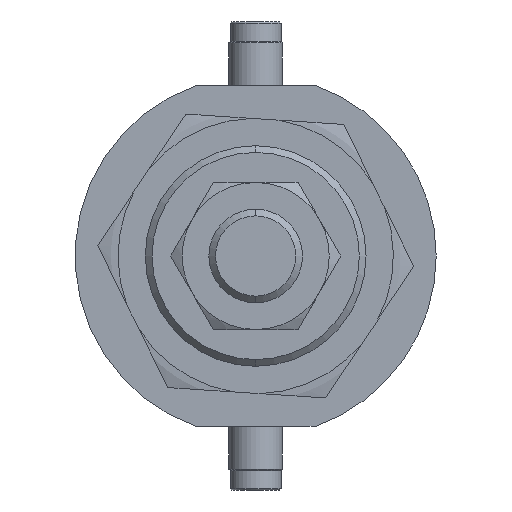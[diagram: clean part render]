
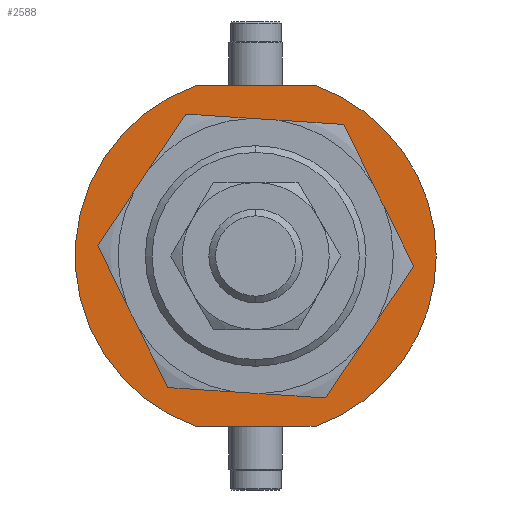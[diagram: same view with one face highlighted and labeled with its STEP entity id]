
A CAD part, left-side view. The second image highlights one B-rep face of the part: STEP entity #2588.
In plain terms, the highlighted planar face has unit normal (-1, 0, 0) as drawn and (0, 1, 0) by its records, which use the part's own axes.
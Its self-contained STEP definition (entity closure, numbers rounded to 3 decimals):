
#77 = ORIENTED_EDGE ( 'NONE', *, *, #2683, .F. ) ;
#82 = VERTEX_POINT ( 'NONE', #3776 ) ;
#120 = FACE_BOUND ( 'NONE', #3871, .T. ) ;
#127 = DIRECTION ( 'NONE',  ( 0., 0., 1. ) ) ;
#236 = CARTESIAN_POINT ( 'NONE',  ( -25.5, 4.5, -8.874 ) ) ;
#347 = CARTESIAN_POINT ( 'NONE',  ( 0., 4.5, 16.5 ) ) ;
#348 = CARTESIAN_POINT ( 'NONE',  ( -25.5, 4.5, -8.874 ) ) ;
#372 = CARTESIAN_POINT ( 'NONE',  ( 25.5, 4.5, -8.874 ) ) ;
#398 = ORIENTED_EDGE ( 'NONE', *, *, #1499, .T. ) ;
#441 = VERTEX_POINT ( 'NONE', #2431 ) ;
#457 = CARTESIAN_POINT ( 'NONE',  ( 0., 4.5, 0. ) ) ;
#520 = CARTESIAN_POINT ( 'NONE',  ( 0., 4.5, 0. ) ) ;
#524 = DIRECTION ( 'NONE',  ( 0., 1., 0. ) ) ;
#590 = ORIENTED_EDGE ( 'NONE', *, *, #3584, .F. ) ;
#692 = ORIENTED_EDGE ( 'NONE', *, *, #4002, .T. ) ;
#820 = DIRECTION ( 'NONE',  ( 0., 1., 0. ) ) ;
#821 = CARTESIAN_POINT ( 'NONE',  ( 0., 4.5, -16.5 ) ) ;
#906 = CARTESIAN_POINT ( 'NONE',  ( 0., 4.5, 0. ) ) ;
#1058 = CIRCLE ( 'NONE', #2935, 16.5 ) ;
#1067 = CIRCLE ( 'NONE', #3253, 27. ) ;
#1071 = AXIS2_PLACEMENT_3D ( 'NONE', #906, #1816, #2313 ) ;
#1084 = VERTEX_POINT ( 'NONE', #1772 ) ;
#1168 = VERTEX_POINT ( 'NONE', #2298 ) ;
#1182 = VECTOR ( 'NONE', #3353, 1000. ) ;
#1217 = DIRECTION ( 'NONE',  ( 0., 0., 1. ) ) ;
#1271 = ORIENTED_EDGE ( 'NONE', *, *, #3760, .T. ) ;
#1499 = EDGE_CURVE ( 'NONE', #441, #1168, #2684, .T. ) ;
#1546 = CARTESIAN_POINT ( 'NONE',  ( 0., 4.5, 0. ) ) ;
#1591 = CARTESIAN_POINT ( 'NONE',  ( 0., 4.5, 0. ) ) ;
#1625 = CIRCLE ( 'NONE', #2133, 27. ) ;
#1772 = CARTESIAN_POINT ( 'NONE',  ( 25.5, 4.5, -8.874 ) ) ;
#1798 = DIRECTION ( 'NONE',  ( 0., 0., 1. ) ) ;
#1816 = DIRECTION ( 'NONE',  ( 0., 1., 0. ) ) ;
#1858 = VERTEX_POINT ( 'NONE', #821 ) ;
#2055 = EDGE_CURVE ( 'NONE', #3318, #82, #2086, .T. ) ;
#2086 = LINE ( 'NONE', #236, #2880 ) ;
#2133 = AXIS2_PLACEMENT_3D ( 'NONE', #1591, #2863, #2928 ) ;
#2233 = LINE ( 'NONE', #372, #1182 ) ;
#2276 = AXIS2_PLACEMENT_3D ( 'NONE', #2788, #820, #3341 ) ;
#2298 = CARTESIAN_POINT ( 'NONE',  ( 25.5, 4.5, 8.874 ) ) ;
#2313 = DIRECTION ( 'NONE',  ( 0., 0., 1. ) ) ;
#2431 = CARTESIAN_POINT ( 'NONE',  ( 0., 4.5, 27. ) ) ;
#2476 = EDGE_CURVE ( 'NONE', #1084, #3318, #1067, .T. ) ;
#2481 = EDGE_LOOP ( 'NONE', ( #2949, #3551, #1271, #398, #692 ) ) ;
#2588 = ADVANCED_FACE ( 'NONE', ( #120, #2685 ), #2956, .T. ) ;
#2683 = EDGE_CURVE ( 'NONE', #3882, #1858, #1058, .T. ) ;
#2684 = CIRCLE ( 'NONE', #1071, 27. ) ;
#2685 = FACE_OUTER_BOUND ( 'NONE', #2481, .T. ) ;
#2788 = CARTESIAN_POINT ( 'NONE',  ( 0., 4.5, 0. ) ) ;
#2863 = DIRECTION ( 'NONE',  ( 0., 1., 0. ) ) ;
#2880 = VECTOR ( 'NONE', #1798, 1000. ) ;
#2928 = DIRECTION ( 'NONE',  ( 0., 0., 1. ) ) ;
#2935 = AXIS2_PLACEMENT_3D ( 'NONE', #520, #524, #127 ) ;
#2949 = ORIENTED_EDGE ( 'NONE', *, *, #2476, .T. ) ;
#2956 = PLANE ( 'NONE',  #4178 ) ;
#3253 = AXIS2_PLACEMENT_3D ( 'NONE', #1546, #3837, #1217 ) ;
#3318 = VERTEX_POINT ( 'NONE', #348 ) ;
#3341 = DIRECTION ( 'NONE',  ( 0., 0., 1. ) ) ;
#3353 = DIRECTION ( 'NONE',  ( 0., 0., -1. ) ) ;
#3443 = DIRECTION ( 'NONE',  ( 0., 1., 0. ) ) ;
#3551 = ORIENTED_EDGE ( 'NONE', *, *, #2055, .T. ) ;
#3584 = EDGE_CURVE ( 'NONE', #1858, #3882, #4082, .T. ) ;
#3760 = EDGE_CURVE ( 'NONE', #82, #441, #1625, .T. ) ;
#3776 = CARTESIAN_POINT ( 'NONE',  ( -25.5, 4.5, 8.874 ) ) ;
#3786 = DIRECTION ( 'NONE',  ( 0., 0., 1. ) ) ;
#3837 = DIRECTION ( 'NONE',  ( 0., 1., 0. ) ) ;
#3871 = EDGE_LOOP ( 'NONE', ( #77, #590 ) ) ;
#3882 = VERTEX_POINT ( 'NONE', #347 ) ;
#4002 = EDGE_CURVE ( 'NONE', #1168, #1084, #2233, .T. ) ;
#4082 = CIRCLE ( 'NONE', #2276, 16.5 ) ;
#4178 = AXIS2_PLACEMENT_3D ( 'NONE', #457, #3443, #3786 ) ;
